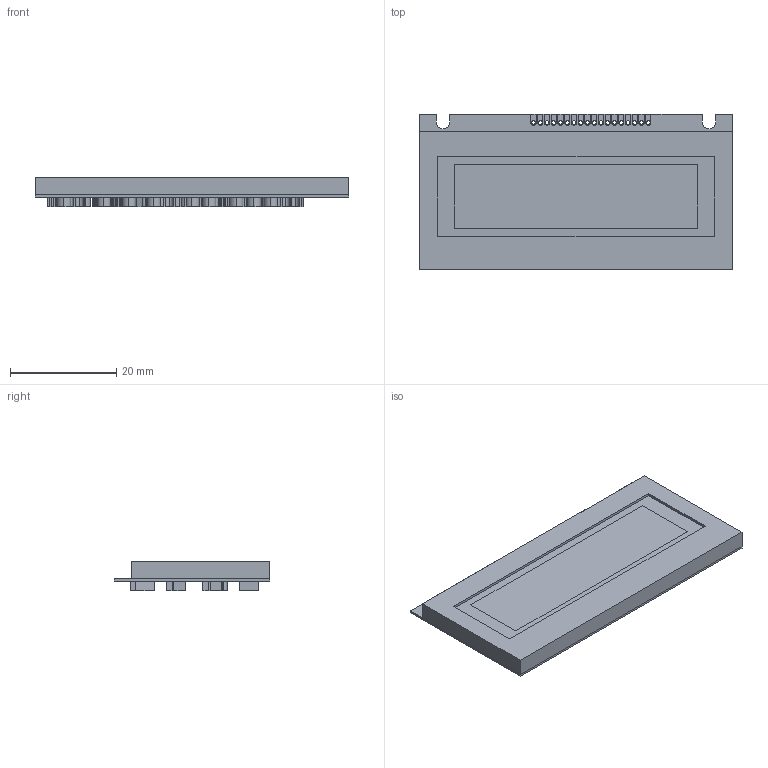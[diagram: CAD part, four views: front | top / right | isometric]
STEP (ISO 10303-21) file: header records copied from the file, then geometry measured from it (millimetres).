
FILE_DESCRIPTION (( 'STEP AP214' ), '1' );
FILE_NAME ('CFAG12232D1.STEP', '2023-01-16T23:06:27', ( '' ), ( '' ), 'SwSTEP 2.0', 'SolidWorks 2021', '' );
FILE_SCHEMA (( 'AUTOMOTIVE_DESIGN' ));
Length unit declared in the file: millimetre
Products named in the file (1): CFAG12232D1
Bounding box: 59 x 29.3 x 5.5 mm (x, y, z)
Volume: 5579.1 mm3; surface area: 8720.6 mm2
Topology: 20 solids, 20 shells, 1042 faces, 2743 edges, 1830 vertices
Faces by surface type: plane 585, bspline 383, cylinder 74
Entity records: 53506 total; most frequent: CARTESIAN_POINT 26663, ORIENTED_EDGE 5486, DIRECTION 3445, EDGE_CURVE 2743, VERTEX_POINT 1830, LINE 1829, VECTOR 1829, EDGE_LOOP 1167
